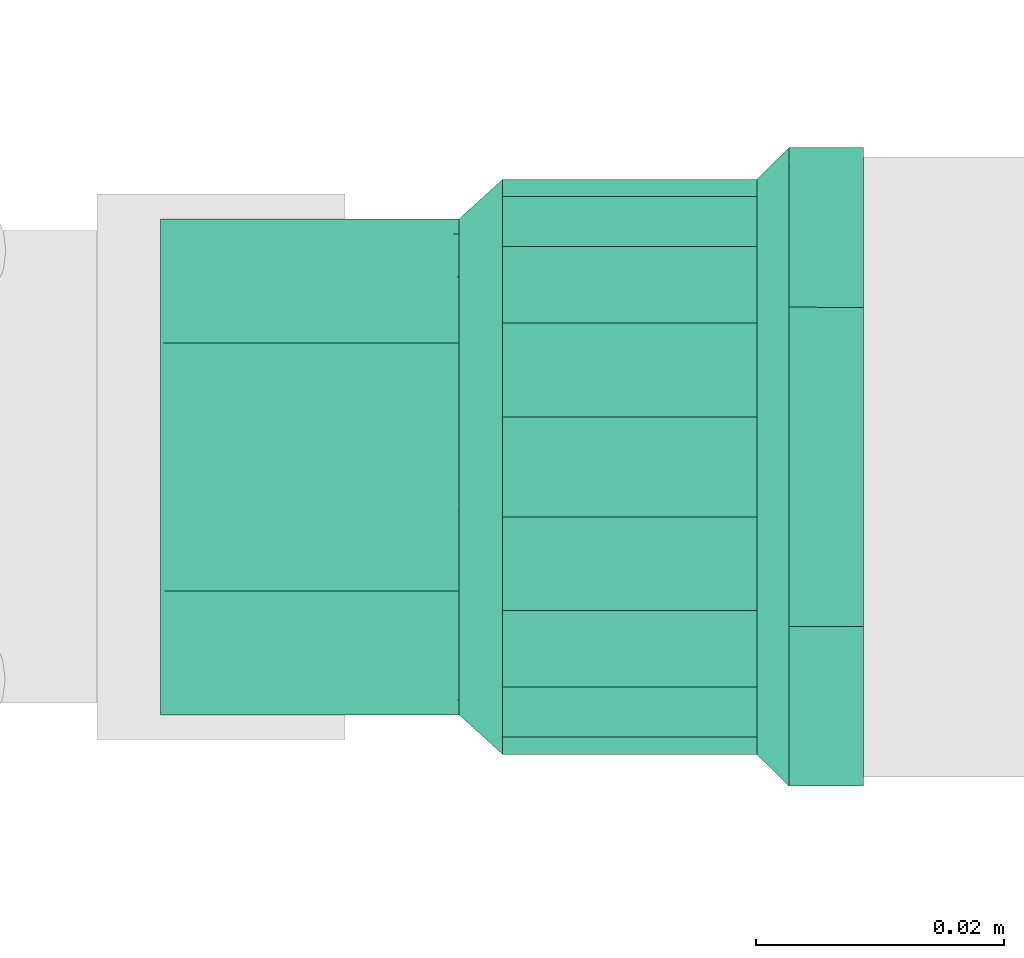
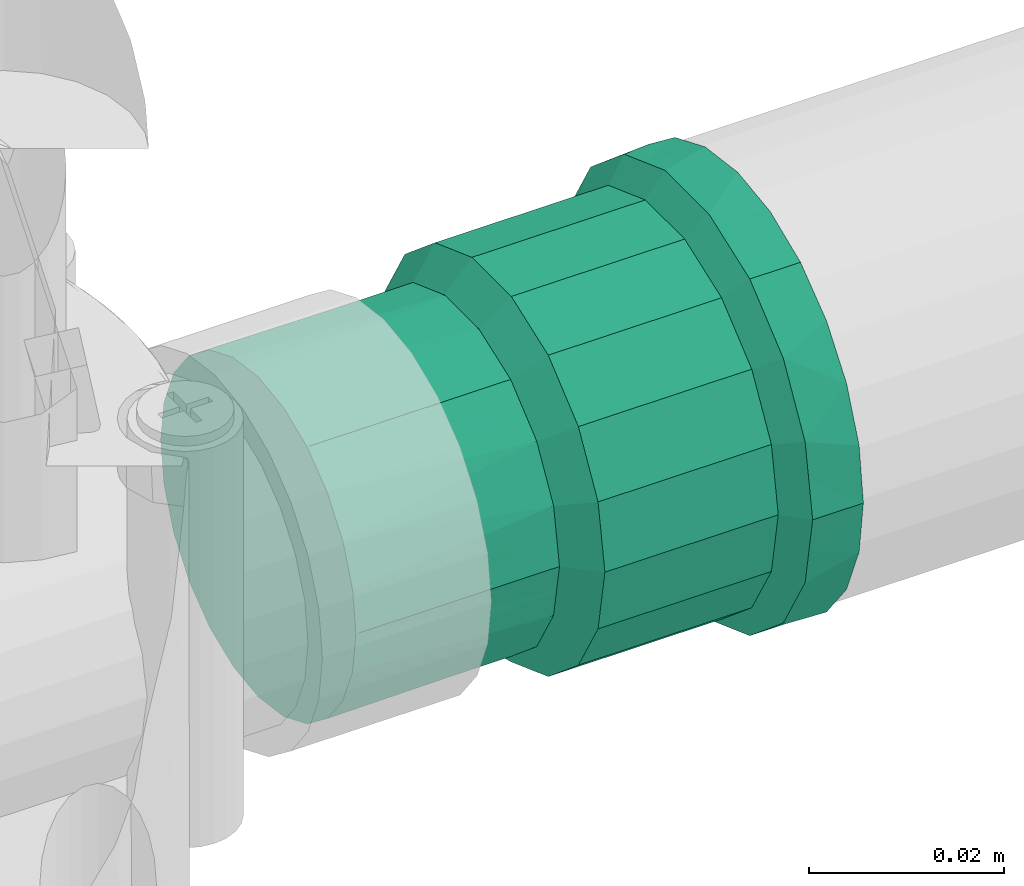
# One storey, part 146 of 166: 1 flow fitting.
"""IFC2X3 building model written with IfcOpenShell, lengths in metres."""

from ifc_helpers import new_model, entity, si_unit, converted_unit, direction, frame, origin, place, context, subcontext, project, spatial, faceted_brep, source, transform, mapped, material, type_object, type_shapes, element, save


model = new_model("IFC2X3")

# Units and contexts
model_context = context("Model", 3, precision=1e-05, world=origin(), true_north=direction((6.123233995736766e-17, 1.0)))
body_context = subcontext(model_context, "Body", "Model", "MODEL_VIEW")
ifc_project = project(units=[si_unit("LENGTHUNIT", "METRE"), converted_unit("PLANEANGLEUNIT", "DEGREE", entity("IfcPlaneAngleMeasure", 0.017453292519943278), si_unit("PLANEANGLEUNIT", "RADIAN"), dimensions=[0, 0, 0, 0, 0, 0, 0]), si_unit("AREAUNIT", "SQUARE_METRE")], contexts=[model_context])

# Site, building, storey
site_placement = place(None, origin())
site = spatial("IfcSite", under=ifc_project, at=site_placement, Name="Default", CompositionType="ELEMENT")
building_placement = place(site_placement, origin())
building = spatial("IfcBuilding", under=site, at=building_placement, Name="CASA DE ACOLHIDA PARA IDOSOS", CompositionType="ELEMENT")
storey_placement = place(building_placement, frame((0.0, 0.0, -1.7499999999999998)))
storey = spatial("IfcBuildingStorey", under=building, at=storey_placement, Name="IMPLANTAÇÃO DRENAGEM", CompositionType="ELEMENT", Elevation=-1.7499999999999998)

# Flow fitting
ifc_material = material(Name="PVC Marrom")
pipe_fitting_type = type_object("IfcPipeFittingType", Name="AF_Soldavel_Adaptador Curto com Bolsa e Rosca:Standard", PredefinedType="NOTDEFINED", material=ifc_material)
shared_shape = source(origin(), body_context, "Body", "Brep", [
    faceted_brep([(0.0, -0.012875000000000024, -0.02230015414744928), (0.0, -0.018207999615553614, -0.018207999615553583), (0.0, -0.0099999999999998, -0.017320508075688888), (0.0, -0.0051763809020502, -0.019318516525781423), (0.0, -0.006664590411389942, -0.0248725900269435), (0.0, -0.014142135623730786, -0.014142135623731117), (0.0, -0.022300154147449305, -0.01287499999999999), (0.0, -0.01732050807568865, -0.01000000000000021), (0.0, -0.0193185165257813, -0.005176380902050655), (0.0, -0.02487259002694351, -0.006664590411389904), (0.0, -0.02, 0.0), (0.0, -0.025750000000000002, 0.0), (0.0, -0.019318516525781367, 0.00517638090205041), (0.0, -0.024872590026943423, 0.006664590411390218), (0.0, -0.01732050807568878, 0.00999999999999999), (0.0, -0.02230015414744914, 0.012875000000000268), (0.0, -0.014142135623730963, 0.014142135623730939), (0.0, -0.018207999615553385, 0.018207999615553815), (0.0, -0.010000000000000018, 0.017320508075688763), (0.0, -0.012874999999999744, 0.022300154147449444), (0.0, -0.00517638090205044, 0.01931851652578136), (0.0, -0.006664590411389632, 0.024872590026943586), (0.0, 0.0, 0.02), (0.0, 0.0, 0.025750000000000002), (0.0, 0.005176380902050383, 0.019318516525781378), (0.0, 0.0066645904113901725, 0.024872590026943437), (0.0, 0.009999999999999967, 0.017320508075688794), (0.0, 0.012875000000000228, 0.022300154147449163), (0.0, 0.01414213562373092, 0.014142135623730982), (0.0, 0.01820799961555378, 0.01820799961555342), (0.0, 0.01732050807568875, 0.010000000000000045), (0.0, 0.02230015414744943, 0.012874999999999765), (0.0, 0.024872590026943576, 0.006664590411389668), (0.0, 0.01931851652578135, 0.005176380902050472), (0.0, 0.025750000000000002, 0.0), (0.0, 0.02, 0.0), (0.0, 0.02487259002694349, -0.006664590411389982), (0.0, 0.01931851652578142, -0.005176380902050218), (0.0, 0.02230015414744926, -0.012875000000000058), (0.0, 0.01732050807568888, -0.009999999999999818), (0.0, 0.01820799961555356, -0.018207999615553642), (0.0, 0.014142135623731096, -0.014142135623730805), (0.0, 0.012874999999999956, -0.022300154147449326), (0.0, 0.010000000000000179, -0.01732050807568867), (0.0, 0.006664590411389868, -0.024872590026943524), (0.0, 0.005176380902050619, -0.01931851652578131), (0.0, 0.0, -0.025750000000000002), (0.0, 0.0, -0.02), (0.005999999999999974, 0.024196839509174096, 0.008807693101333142), (0.005999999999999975, 0.024768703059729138, 0.005564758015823), (0.005999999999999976, 0.024973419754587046, 0.00440384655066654), (0.005999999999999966, 0.016298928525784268, 0.019427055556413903), (0.005999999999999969, 0.019724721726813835, 0.016552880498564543), (0.005999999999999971, 0.021960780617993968, 0.012680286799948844), (0.00599999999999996, 0.008670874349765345, 0.02383026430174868), (0.005999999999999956, 0.004468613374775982, 0.02535929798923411), (0.0059999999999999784, 0.025750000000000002, 0.0), (0.0059999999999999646, 0.01287313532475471, 0.02230123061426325), (0.00599999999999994, -0.012878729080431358, 0.022298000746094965), (0.005999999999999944, -0.008676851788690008, 0.023828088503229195), (0.005999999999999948, -0.004474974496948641, 0.02535817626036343), (0.005999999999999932, -0.019728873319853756, 0.016547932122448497), (0.005999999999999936, -0.016303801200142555, 0.019422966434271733), (0.0059999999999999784, -0.025750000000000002, 0.0), (0.005999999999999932, -0.024199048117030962, 0.008801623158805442), (0.005999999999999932, -0.021963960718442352, 0.012674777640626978), (0.0059999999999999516, -3.180561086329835e-06, 0.02535873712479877), (0.006000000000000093, -0.024199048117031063, -0.00880162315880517), (0.006000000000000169, -0.01630380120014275, -0.019422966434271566), (0.006000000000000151, -0.019728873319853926, -0.016547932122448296), (0.006000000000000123, -0.021963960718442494, -0.012674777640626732), (0.006000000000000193, -0.008676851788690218, -0.023828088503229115), (0.006000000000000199, -0.004474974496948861, -0.025358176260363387), (0.006000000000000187, -0.012878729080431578, -0.02229800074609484), (0.006000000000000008, 0.02497341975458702, -0.004403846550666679), (0.0060000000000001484, 0.012873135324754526, -0.022301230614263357), (0.006000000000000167, 0.008670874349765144, -0.023830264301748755), (0.006000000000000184, 0.004468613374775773, -0.02535929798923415), (0.006000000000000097, 0.01972472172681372, -0.016552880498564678), (0.006000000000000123, 0.016298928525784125, -0.019427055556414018), (0.006000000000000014, 0.024768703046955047, -0.005564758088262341), (0.006000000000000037, 0.024196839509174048, -0.008807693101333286), (0.006000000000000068, 0.021960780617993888, -0.012680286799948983), (0.006000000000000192, -3.1805610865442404e-06, -0.02535873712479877), (0.02909999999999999, 0.022482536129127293, 0.004068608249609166), (0.02910000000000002, 0.023200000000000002, 0.0), (0.00860000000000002, 0.023200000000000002, 0.0), (0.008600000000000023, 0.022500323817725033, 0.003967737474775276), (0.008600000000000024, 0.021800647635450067, 0.007935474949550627), (0.029099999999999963, 0.021800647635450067, 0.007935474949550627), (0.02909999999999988, 0.014684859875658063, 0.017503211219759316), (0.029099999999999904, 0.017771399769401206, 0.014913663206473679), (0.008600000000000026, 0.017771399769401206, 0.014913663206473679), (0.00860000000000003, 0.014684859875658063, 0.017503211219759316), (0.00860000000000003, 0.011598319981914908, 0.020092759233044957), (0.02909999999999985, 0.011598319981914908, 0.020092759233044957), (0.02909999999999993, 0.019786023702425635, 0.01142456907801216), (0.008600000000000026, 0.019786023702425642, 0.011424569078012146), (0.029099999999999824, 0.004026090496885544, 0.02284798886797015), (0.02909999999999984, 0.007812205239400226, 0.021470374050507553), (0.00860000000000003, 0.007812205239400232, 0.02147037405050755), (0.00860000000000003, 0.004026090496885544, 0.02284798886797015), (0.029099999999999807, -0.004031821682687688, 0.022846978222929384), (0.029099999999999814, -2.8655929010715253e-06, 0.022847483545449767), (0.00860000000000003, -2.8655929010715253e-06, 0.022847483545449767), (0.00860000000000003, -0.004031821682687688, 0.022846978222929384), (0.029099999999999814, -0.007817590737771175, 0.021468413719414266), (0.00860000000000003, -0.007817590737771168, 0.021468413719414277), (0.00860000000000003, -0.011603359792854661, 0.020089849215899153), (0.029099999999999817, -0.011603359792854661, 0.020089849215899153), (0.00860000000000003, -0.01468925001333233, 0.017499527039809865), (0.00860000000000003, -0.017775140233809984, 0.014909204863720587), (0.029099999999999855, -0.017775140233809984, 0.014909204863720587), (0.02909999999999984, -0.014689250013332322, 0.01749952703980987), (0.02909999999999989, -0.019788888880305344, 0.011419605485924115), (0.00860000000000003, -0.019788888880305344, 0.01141960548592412), (0.008600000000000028, -0.021802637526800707, 0.00793000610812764), (0.02909999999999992, -0.021802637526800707, 0.00793000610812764), (0.00860000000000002, -0.023200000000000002, 0.0), (0.02910000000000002, -0.023200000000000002, 0.0), (0.029100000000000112, -0.021802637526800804, -0.007930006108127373), (0.008600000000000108, -0.021802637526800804, -0.007930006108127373), (0.00860000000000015, 0.01468485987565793, -0.017503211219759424), (0.008600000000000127, 0.0177713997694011, -0.014913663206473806), (0.029100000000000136, 0.0177713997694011, -0.014913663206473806), (0.02910000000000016, 0.01468485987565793, -0.017503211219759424), (0.02910000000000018, 0.011598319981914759, -0.020092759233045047), (0.00860000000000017, 0.011598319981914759, -0.020092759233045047), (0.02910000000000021, -0.01160335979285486, -0.020089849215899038), (0.029100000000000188, -0.014689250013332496, -0.017499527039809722), (0.02910000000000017, -0.017775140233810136, -0.014909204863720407), (0.008600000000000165, -0.017775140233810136, -0.014909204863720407), (0.00860000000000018, -0.014689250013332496, -0.017499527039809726), (0.0086000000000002, -0.01160335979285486, -0.020089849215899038), (0.008600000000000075, 0.021800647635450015, -0.007935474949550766), (0.02910000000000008, 0.021800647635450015, -0.007935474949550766), (0.029100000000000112, 0.01978602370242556, -0.011424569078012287), (0.0086000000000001, 0.01978602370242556, -0.011424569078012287), (0.008600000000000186, 0.007812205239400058, -0.021470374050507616), (0.029100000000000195, 0.007812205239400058, -0.021470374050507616), (0.029100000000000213, 0.004026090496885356, -0.022847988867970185), (0.008600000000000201, 0.004026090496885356, -0.022847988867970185), (0.02910000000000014, -0.019788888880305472, -0.01141960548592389), (0.008600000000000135, -0.01978888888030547, -0.01141960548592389), (0.008600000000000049, 0.02250032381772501, -0.00396773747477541), (0.029100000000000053, 0.02248253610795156, -0.004068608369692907), (0.029100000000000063, 0.022258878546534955, -0.0053369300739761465), (0.029100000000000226, -0.0040318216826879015, -0.022846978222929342), (0.029100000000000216, -0.00781759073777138, -0.02146841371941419), (0.008600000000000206, -0.00781759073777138, -0.02146841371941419), (0.008600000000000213, -0.0040318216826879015, -0.022846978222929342), (0.02910000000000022, -2.8655929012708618e-06, -0.022847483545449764), (0.008600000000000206, -2.8655929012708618e-06, -0.022847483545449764), (0.056699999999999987, -0.010000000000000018, -0.017320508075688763), (0.056699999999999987, -0.00517638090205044, -0.01931851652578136), (0.056699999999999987, 0.0, -0.02), (0.056699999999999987, 0.005176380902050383, -0.019318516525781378), (0.056699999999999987, 0.009999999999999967, -0.017320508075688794), (0.056699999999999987, 0.01414213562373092, -0.014142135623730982), (0.056699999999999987, 0.01732050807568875, -0.010000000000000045), (0.056699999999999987, 0.01931851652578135, -0.005176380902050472), (0.056699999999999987, 0.02, 0.0), (0.056699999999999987, 0.01931851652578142, 0.005176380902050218), (0.056699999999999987, 0.01732050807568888, 0.009999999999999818), (0.056699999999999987, 0.014142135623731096, 0.014142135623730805), (0.056699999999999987, 0.010000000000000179, 0.01732050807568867), (0.056699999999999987, 0.005176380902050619, 0.01931851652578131), (0.056699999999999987, 0.0, 0.02), (0.056699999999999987, -0.0051763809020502, 0.019318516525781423), (0.056699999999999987, -0.0099999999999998, 0.017320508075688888), (0.056699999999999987, -0.014142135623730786, 0.014142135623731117), (0.056699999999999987, -0.01732050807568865, 0.01000000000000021), (0.056699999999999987, -0.0193185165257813, 0.005176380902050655), (0.056699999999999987, -0.02, 0.0), (0.056699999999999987, -0.019318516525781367, -0.00517638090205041), (0.056699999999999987, -0.01732050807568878, -0.009999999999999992), (0.056699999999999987, -0.014142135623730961, -0.01414213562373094), (0.03261999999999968, 0.0067346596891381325, 0.018508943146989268), (0.03261999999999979, 0.015320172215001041, 0.012856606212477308), (0.03261999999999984, 0.017056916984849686, 0.0098487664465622), (0.032619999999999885, 0.01879366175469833, 0.006840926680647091), (0.032619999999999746, 0.012659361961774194, 0.015088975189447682), (0.032619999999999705, 0.009998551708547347, 0.01732134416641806), (0.032619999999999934, 0.01939683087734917, 0.003420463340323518), (0.03261999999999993, 0.019188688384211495, 0.004600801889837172), (0.03261999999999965, 0.0034707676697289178, 0.019696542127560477), (0.032619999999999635, -2.470338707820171e-06, 0.019696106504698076), (0.03261999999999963, -0.0034757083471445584, 0.019695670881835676), (0.03261999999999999, 0.02, 0.0), (0.032619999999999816, -0.01879537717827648, 0.006836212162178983), (0.03261999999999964, -0.006739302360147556, 0.018507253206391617), (0.032619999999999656, -0.010002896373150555, 0.017318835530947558), (0.03261999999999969, -0.012663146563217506, 0.0150857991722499), (0.03261999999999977, -0.01705938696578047, 0.009844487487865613), (0.03261999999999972, -0.015323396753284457, 0.012852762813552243), (0.03261999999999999, -0.02, 0.0), (0.03262000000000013, -0.015323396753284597, -0.012852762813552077), (0.0326200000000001, -0.017059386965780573, -0.009844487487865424), (0.03262000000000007, -0.018795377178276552, -0.006836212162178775), (0.03262000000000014, -0.012663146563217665, -0.015085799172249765), (0.032620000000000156, -0.010002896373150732, -0.017318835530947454), (0.03262000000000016, -0.006739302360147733, -0.01850725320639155), (0.03262000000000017, -0.0034757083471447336, -0.019695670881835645), (0.03262000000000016, -2.4703387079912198e-06, -0.019696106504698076), (0.032620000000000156, 0.0034707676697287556, -0.019696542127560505), (0.03262000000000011, 0.012659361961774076, -0.015088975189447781), (0.032620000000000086, 0.015320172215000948, -0.01285660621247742), (0.03262000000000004, 0.018793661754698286, -0.006840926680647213), (0.03262000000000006, 0.01705691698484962, -0.009848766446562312), (0.03262000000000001, 0.01939683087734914, -0.0034204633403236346), (0.03262000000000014, 0.006734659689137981, -0.018508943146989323), (0.03262000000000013, 0.009998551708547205, -0.017321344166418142), (0.00860000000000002, 0.019318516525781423, -0.005176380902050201), (0.02910000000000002, 0.019318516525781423, -0.005176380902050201), (0.02910000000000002, 0.02, 0.0), (0.00860000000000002, 0.02, 0.0), (0.0059999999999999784, 0.02, 0.0), (0.0059999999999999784, 0.019318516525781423, -0.005176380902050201), (0.00860000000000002, 0.017320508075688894, -0.009999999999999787), (0.02910000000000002, 0.017320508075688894, -0.009999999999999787), (0.0059999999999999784, 0.017320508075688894, -0.009999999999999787), (0.02910000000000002, 0.010000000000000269, -0.017320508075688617), (0.02910000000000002, 0.014142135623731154, -0.014142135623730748), (0.00860000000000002, 0.014142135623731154, -0.014142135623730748), (0.0059999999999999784, 0.014142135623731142, -0.01414213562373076), (0.0059999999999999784, 0.010000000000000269, -0.017320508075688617), (0.00860000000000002, 0.010000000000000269, -0.017320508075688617), (0.02910000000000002, 0.005176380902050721, -0.019318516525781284), (0.0059999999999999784, 0.005176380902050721, -0.019318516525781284), (0.00860000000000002, 0.005176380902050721, -0.019318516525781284), (0.02910000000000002, 0.0, -0.02), (0.0059999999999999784, 0.0, -0.02), (0.00860000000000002, 0.0, -0.02), (0.00860000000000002, -0.005176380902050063, -0.01931851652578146), (0.02910000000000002, -0.005176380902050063, -0.01931851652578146), (0.0059999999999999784, -0.005176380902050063, -0.01931851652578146), (0.00860000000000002, -0.009999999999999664, -0.017320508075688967), (0.02910000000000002, -0.009999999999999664, -0.017320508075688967), (0.0059999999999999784, -0.009999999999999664, -0.017320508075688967), (0.02910000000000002, -0.017320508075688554, -0.010000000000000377), (0.02910000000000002, -0.014142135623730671, -0.01414213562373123), (0.00860000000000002, -0.014142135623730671, -0.01414213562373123), (0.0059999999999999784, -0.01414213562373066, -0.014142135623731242), (0.0059999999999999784, -0.017320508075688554, -0.010000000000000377), (0.00860000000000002, -0.017320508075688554, -0.010000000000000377), (0.02910000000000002, -0.019318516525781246, -0.00517638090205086), (0.0059999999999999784, -0.019318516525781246, -0.00517638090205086), (0.00860000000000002, -0.019318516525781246, -0.00517638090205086), (0.00860000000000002, -0.02, 0.0), (0.02910000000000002, -0.02, 0.0), (0.0059999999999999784, -0.02, 0.0), (0.00860000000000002, -0.01931851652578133, 0.005176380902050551), (0.02910000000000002, -0.01931851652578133, 0.005176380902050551), (0.0059999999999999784, -0.01931851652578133, 0.005176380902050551), (0.00860000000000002, -0.017320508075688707, 0.010000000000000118), (0.02910000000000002, -0.017320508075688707, 0.010000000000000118), (0.0059999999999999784, -0.017320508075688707, 0.010000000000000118), (0.02910000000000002, -0.009999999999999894, 0.017320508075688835), (0.02910000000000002, -0.014142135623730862, 0.014142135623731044), (0.00860000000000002, -0.014142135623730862, 0.014142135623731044), (0.0059999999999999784, -0.014142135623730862, 0.014142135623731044), (0.0059999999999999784, -0.009999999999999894, 0.017320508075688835), (0.00860000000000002, -0.009999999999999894, 0.017320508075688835), (0.02910000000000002, -0.005176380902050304, 0.019318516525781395), (0.0059999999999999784, -0.005176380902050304, 0.019318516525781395), (0.00860000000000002, -0.005176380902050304, 0.019318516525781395), (0.02910000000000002, 0.0, 0.02), (0.0059999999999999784, 0.0, 0.02), (0.00860000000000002, 0.0, 0.02), (0.0059999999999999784, 0.005176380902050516, 0.01931851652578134), (0.00860000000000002, 0.005176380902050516, 0.01931851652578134), (0.02910000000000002, 0.005176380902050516, 0.01931851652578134), (0.02910000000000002, 0.017320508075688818, 0.009999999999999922), (0.00860000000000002, 0.017320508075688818, 0.009999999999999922), (0.0059999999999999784, 0.017320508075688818, 0.009999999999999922), (0.0059999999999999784, 0.019318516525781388, 0.005176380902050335), (0.00860000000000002, 0.019318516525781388, 0.005176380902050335), (0.02910000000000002, 0.019318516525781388, 0.005176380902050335), (0.02910000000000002, 0.014142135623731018, 0.014142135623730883), (0.00860000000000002, 0.014142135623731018, 0.014142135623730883), (0.0059999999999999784, 0.014142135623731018, 0.014142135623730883), (0.0059999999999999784, 0.010000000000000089, 0.017320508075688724), (0.00860000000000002, 0.010000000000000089, 0.017320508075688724), (0.02910000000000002, 0.010000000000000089, 0.017320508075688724)], [[[0, 1, 2]], [[0, 2, 3]], [[3, 4, 0]], [[2, 1, 5]], [[6, 5, 1]], [[7, 5, 6]], [[8, 7, 6]], [[8, 6, 9]], [[8, 9, 10]], [[10, 9, 11]], [[12, 10, 11]], [[12, 11, 13]], [[14, 12, 13]], [[14, 13, 15]], [[16, 14, 15]], [[15, 17, 16]], [[17, 18, 16]], [[18, 17, 19]], [[18, 19, 20]], [[21, 20, 19]], [[20, 21, 22]], [[22, 21, 23]], [[23, 24, 22]], [[24, 23, 25]], [[24, 25, 26]], [[27, 26, 25]], [[27, 28, 26]], [[27, 29, 28]], [[30, 28, 29]], [[31, 30, 29]], [[32, 30, 31]], [[33, 30, 32]], [[33, 32, 34]], [[34, 35, 33]], [[36, 35, 34]], [[36, 37, 35]], [[37, 36, 38]], [[39, 37, 38]], [[39, 38, 40]], [[39, 40, 41]], [[40, 42, 41]], [[41, 42, 43]], [[43, 42, 44]], [[44, 45, 43]], [[46, 45, 44]], [[4, 47, 46]], [[46, 47, 45]], [[4, 3, 47]], [[32, 48, 49, 50]], [[51, 52, 29]], [[53, 48, 31, 52]], [[54, 25, 55]], [[48, 32, 31]], [[34, 50, 56]], [[27, 57, 51]], [[29, 27, 51]], [[29, 52, 31]], [[19, 58, 59]], [[21, 19, 59]], [[54, 57, 27]], [[25, 54, 27]], [[55, 25, 23]], [[32, 50, 34]], [[59, 60, 21]], [[61, 62, 17]], [[63, 64, 13]], [[65, 61, 15, 64]], [[11, 63, 13]], [[17, 62, 19]], [[66, 55, 23, 60]], [[21, 60, 23]], [[61, 17, 15]], [[19, 62, 58]], [[13, 64, 15]], [[67, 63, 9]], [[68, 69, 1]], [[70, 67, 6, 69]], [[71, 4, 72]], [[67, 9, 6]], [[63, 11, 9]], [[4, 71, 0]], [[0, 73, 68]], [[1, 69, 6]], [[36, 34, 74]], [[42, 75, 76]], [[71, 73, 0]], [[44, 42, 76]], [[72, 4, 46]], [[1, 0, 68]], [[76, 77, 44]], [[78, 79, 40]], [[36, 74, 80, 81]], [[82, 78, 38, 81]], [[36, 81, 38]], [[40, 79, 42]], [[83, 72, 46, 77]], [[44, 77, 46]], [[78, 40, 38]], [[42, 79, 75]], [[34, 56, 74]], [[84, 85, 86, 87, 88, 89]], [[90, 91, 92, 93, 94, 95]], [[91, 96, 89, 88, 97, 92]], [[98, 99, 95, 94, 100, 101]], [[102, 103, 98, 101, 104, 105]], [[106, 102, 105, 107, 108, 109]], [[110, 111, 112, 113, 109, 108]], [[114, 112, 111, 115, 116, 117]], [[116, 118, 119, 117]], [[120, 119, 118, 121]], [[122, 123, 124, 125, 126, 127]], [[128, 129, 130, 131, 132, 133]], [[134, 135, 136, 124, 123, 137]], [[138, 127, 126, 139, 140, 141]], [[130, 142, 120, 121, 143, 131]], [[144, 86, 85, 145, 146, 135, 134]], [[147, 148, 128, 133, 149, 150]], [[140, 151, 147, 150, 152, 141]], [[153, 154, 155, 156, 157, 158, 159, 160, 161, 162, 163, 164, 165, 166, 167, 168, 169, 170, 171, 172, 173, 174, 175, 176]], [[166, 165, 177]], [[178, 164, 163]], [[179, 178, 163, 180]], [[165, 181, 182]], [[162, 183, 184, 180]], [[177, 185, 166]], [[181, 164, 178]], [[186, 187, 167, 185]], [[164, 181, 165]], [[162, 161, 183]], [[161, 188, 183]], [[162, 180, 163]], [[167, 187, 168]], [[189, 172, 171]], [[168, 190, 169]], [[169, 191, 192]], [[193, 189, 171, 194]], [[173, 172, 195]], [[168, 187, 190]], [[190, 191, 169]], [[170, 194, 171]], [[165, 182, 177]], [[192, 194, 170]], [[170, 169, 192]], [[189, 195, 172]], [[166, 185, 167]], [[174, 173, 195]], [[196, 176, 175]], [[197, 196, 175, 198]], [[153, 199, 200]], [[174, 195, 198]], [[201, 202, 154]], [[199, 176, 196]], [[203, 204, 155, 202]], [[154, 202, 155]], [[176, 199, 153]], [[158, 157, 205]], [[154, 153, 201]], [[153, 200, 201]], [[158, 206, 159]], [[174, 198, 175]], [[207, 160, 159]], [[208, 207, 159, 206]], [[160, 209, 161]], [[209, 188, 161]], [[204, 210, 156]], [[156, 155, 204]], [[157, 210, 211]], [[156, 210, 157]], [[205, 206, 158]], [[160, 207, 209]], [[157, 211, 205]], [[212, 213, 214, 215, 216, 35, 37, 217]], [[218, 219, 213, 212, 217, 37, 39, 220]], [[221, 222, 223, 224, 41, 43, 225, 226]], [[218, 220, 39, 41, 224, 223, 222, 219]], [[227, 221, 226, 225, 43, 45, 228, 229]], [[230, 227, 229, 228, 45, 47, 231, 232]], [[233, 234, 230, 232, 231, 47, 3, 235]], [[236, 237, 234, 233, 235, 3, 2, 238]], [[239, 240, 241, 242, 5, 7, 243, 244]], [[236, 238, 2, 5, 242, 241, 240, 237]], [[245, 239, 244, 243, 7, 8, 246, 247]], [[248, 249, 245, 247, 246, 8, 10, 250]], [[251, 252, 249, 248, 250, 10, 12, 253]], [[254, 255, 252, 251, 253, 12, 14, 256]], [[257, 258, 259, 260, 16, 18, 261, 262]], [[254, 256, 14, 16, 260, 259, 258, 255]], [[263, 257, 262, 261, 18, 20, 264, 265]], [[266, 263, 265, 264, 20, 22, 267, 268]], [[268, 267, 22, 24, 269, 270, 271, 266]], [[272, 273, 274, 30, 33, 275, 276, 277]], [[273, 272, 278, 279, 280, 28, 30, 274]], [[277, 276, 275, 33, 35, 216, 215, 214]], [[271, 270, 269, 24, 26, 281, 282, 283]], [[283, 282, 281, 26, 28, 280, 279, 278]], [[63, 67, 121, 118]], [[68, 73, 133, 132, 131, 69]], [[149, 133, 73, 71, 72, 150]], [[70, 69, 131, 143, 121, 67]], [[76, 75, 127, 138, 141, 77]], [[82, 81, 134, 137, 123, 78]], [[144, 134, 81, 80, 74, 56, 86]], [[141, 152, 150, 72, 83, 77]], [[123, 122, 127, 75, 79, 78]], [[87, 86, 56, 50, 49, 48, 88]], [[97, 88, 48, 53, 52, 92]], [[93, 92, 52, 51, 57, 94]], [[57, 54, 55, 101, 100, 94]], [[66, 60, 105, 104, 101, 55]], [[58, 108, 107, 105, 60, 59]], [[63, 118, 116, 64]], [[61, 65, 64, 116, 115, 111]], [[58, 62, 61, 111, 110, 108]], [[227, 230, 234, 237, 240, 239, 245, 249, 252, 255, 258, 257, 263, 266, 271, 283, 278, 272, 277, 214, 213, 219, 222, 221]], [[180, 184, 183, 188, 85, 84, 89]], [[99, 98, 185, 177, 182, 95]], [[182, 181, 178, 91, 90, 95]], [[178, 179, 180, 89, 96, 91]], [[103, 102, 187, 186, 185, 98]], [[114, 117, 189, 193, 194, 112]], [[106, 109, 191, 190, 187, 102]], [[117, 119, 195, 189]], [[194, 192, 191, 109, 113, 112]], [[119, 120, 198, 195]], [[201, 200, 128, 148, 147, 202]], [[129, 128, 200, 199, 196, 130]], [[196, 197, 198, 120, 142, 130]], [[139, 126, 211, 210, 204, 140]], [[136, 135, 207, 208, 206, 124]], [[209, 207, 135, 146, 145, 85, 188]], [[204, 203, 202, 147, 151, 140]], [[206, 205, 211, 126, 125, 124]]]),
])
type_shapes(pipe_fitting_type, [shared_shape])
flow_fitting_placement = place(storey_placement, frame((-49.02258607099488, 9.654942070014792, -0.2), z_axis=(0.0, 0.0, 1.0), x_axis=(-1.0, 0.0, 0.0)))
element("IfcFlowFitting", 1, at=flow_fitting_placement, inside=storey, type_object=pipe_fitting_type, material=ifc_material, Name="AF_Soldavel_Adaptador Curto com Bolsa e Rosca:Standard", ObjectType="AF_Soldavel_Adaptador Curto com Bolsa e Rosca:Standard", context=body_context, shape_type="MappedRepresentation", body=[
    mapped(shared_shape, transform((0.0, 0.0, 0.0), scale=1.0)),
])

save(model, "model.ifc")
